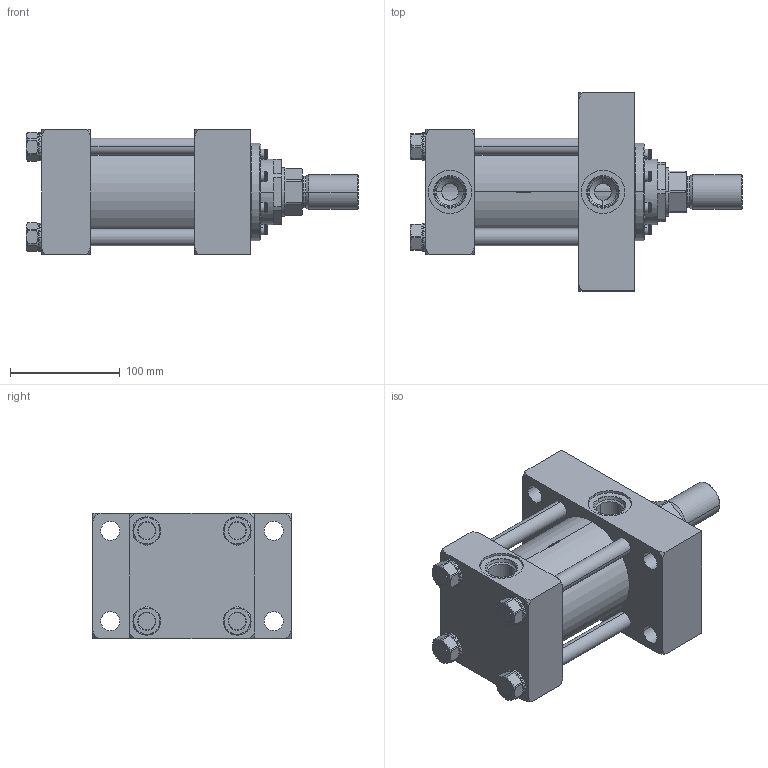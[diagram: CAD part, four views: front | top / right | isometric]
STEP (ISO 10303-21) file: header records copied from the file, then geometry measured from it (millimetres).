
FILE_DESCRIPTION (( 'STEP AP214' ), '1' );
FILE_NAME ('3.25JJ2HHNAT134A2.000.step', '2026-03-26T21:19:22', ( '' ), ( '' ), 'SwSTEP 2.0', 'SolidWorks 2023', '' );
FILE_SCHEMA (( 'AUTOMOTIVE_DESIGN' ));
Length unit declared in the file: inch
Products named in the file (1): 3.25JJ2HHNAT134A2.000
Bounding box: 303.21 x 180.97 x 114.3 mm (x, y, z)
Volume: 2229004.5 mm3; surface area: 364958.6 mm2
Topology: 43 solids, 43 shells, 1878 faces, 4971 edges, 3190 vertices
Faces by surface type: plane 830, cylinder 759, cone 229, bspline 52, torus 8
Entity records: 86624 total; most frequent: CARTESIAN_POINT 16322, ORIENTED_EDGE 9862, DIRECTION 9189, EDGE_CURVE 4931, AXIS2_PLACEMENT_3D 3547, VERTEX_POINT 3190, LINE 2095, VECTOR 2095
